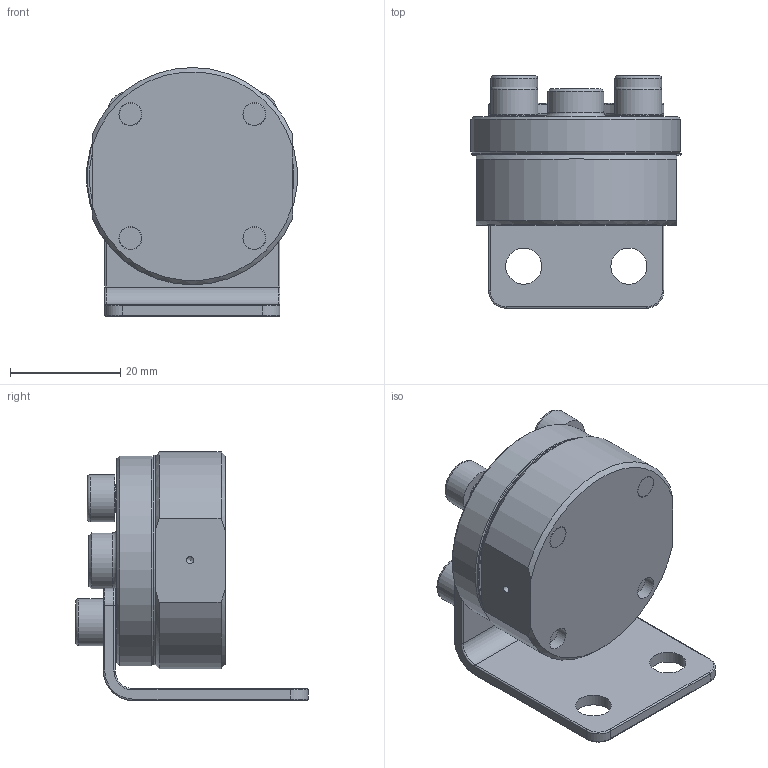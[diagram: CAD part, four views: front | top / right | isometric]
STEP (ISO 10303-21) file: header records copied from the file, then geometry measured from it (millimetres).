
FILE_DESCRIPTION(/* description */ (''),/* implementation_level */ '2;1');
FILE_NAME(/* name */ 'Z:\Models\Instrument Series\LV\Other Drawings\LVF0 w_Bracket.stp',/* time_stamp */ '2018-03-08T12:19:13-05:00',/* author */ ('CADuser'),/* organization */ (''),/* preprocessor_version */ 'ST-DEVELOPER v16.13',/* originating_system */ 'Autodesk Inventor 2018',/* authorisation */ '');
FILE_SCHEMA (('AUTOMOTIVE_DESIGN { 1 0 10303 214 3 1 1 }'));
Length unit declared in the file: inch
Products named in the file (8): LFV Assembly; LVF External; LVF RC; LVF Diaphragm; 9464K710_CHEMICAL-RESISTANT MULTIPURPOSE O-RING; 9464K740_CHEMICAL-RESISTANT MULTIPURPOSE O-RING; X6P Mounting Bracket; ANSI B18.3.1M - M5x0.8 x 20
Assembly tree (10 placements, depth 2):
  LFV Assembly
    LVF External
    LVF RC
    LVF Diaphragm
    9464K710_CHEMICAL-RESISTANT MULTIPURPOSE O-RING
    9464K740_CHEMICAL-RESISTANT MULTIPURPOSE O-RING
    ANSI B18.3.1M - M5x0.8 x 20  x4
    X6P Mounting Bracket
Bounding box: 38.07 x 42.08 x 45.09 mm (x, y, z)
Volume: 27558.5 mm3; surface area: 17173.2 mm2
Topology: 10 solids, 10 shells, 175 faces, 394 edges, 246 vertices
Faces by surface type: cylinder 61, plane 60, torus 30, cone 20, sphere 4
Full cylindrical faces by diameter (mm): 0.762 x1, 1.3 x2, 1.651 x1, 4.039 x1, 4.14 x4, 5 x4, 5.309 x10, 6.528 x2, 8.5 x4, 10.16 x1, 16.002 x1, 20.65 x1, 20.828 x1, 25.4 x1, 38.1 x2
Entity records: 3665 total; most frequent: DIRECTION 664, CARTESIAN_POINT 571, ORIENTED_EDGE 458, AXIS2_PLACEMENT_3D 300, EDGE_CURVE 229, EDGE_LOOP 220, VERTEX_POINT 165, CIRCLE 151
